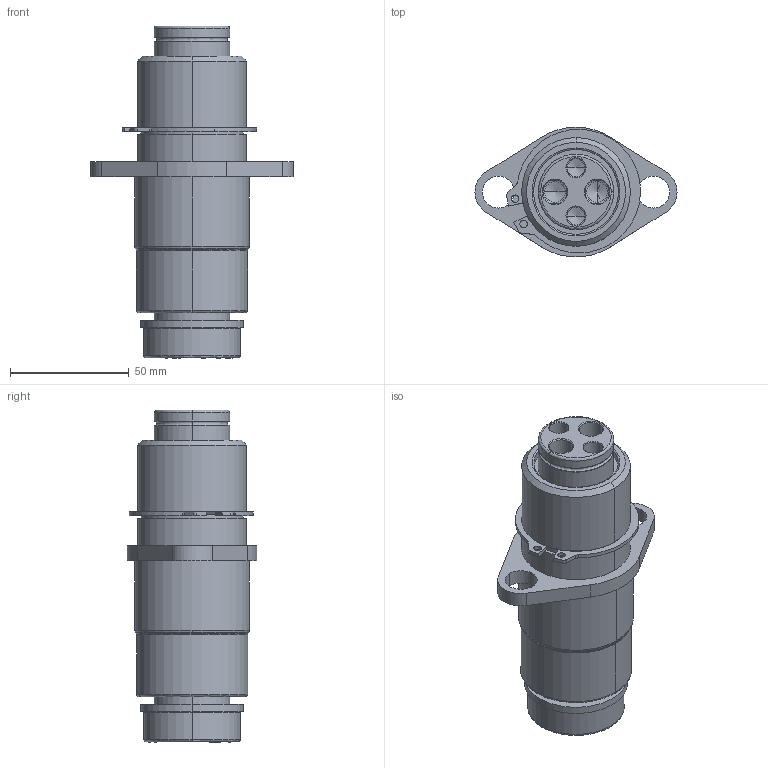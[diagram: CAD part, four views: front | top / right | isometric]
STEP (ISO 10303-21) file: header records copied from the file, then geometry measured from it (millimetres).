
FILE_DESCRIPTION (( 'STEP AP214' ), '1' );
FILE_NAME ('GK120-N4-2-BP-M-XXX.STEP', '2020-09-21T15:59:00', ( '' ), ( '' ), 'SwSTEP 2.0', 'SolidWorks 2017', '' );
FILE_SCHEMA (( 'AUTOMOTIVE_DESIGN' ));
Length unit declared in the file: inch
Products named in the file (7): GK1.25-N4-2-BP-Base; RetainingRing; GK120-N4-2-BP-M-XXX; GK120-DampeningWasher; GK120-M-XXX-GuidePin
Assembly tree (6 placements, depth 3):
  GK120-N4-2-BP-M-XXX
    GK1.25-N4-2-BP-Base
      GK1.25-N4-2-BP-Base
      RetainingRing
    GK120-M-XXX-GuidePin
      GK120-M-XXX-GuidePin
      GK120-DampeningWasher
Bounding box: 85.09 x 54.52 x 139.7 mm (x, y, z)
Volume: 218542.8 mm3; surface area: 54884.1 mm2
Topology: 4 solids, 4 shells, 153 faces, 353 edges, 214 vertices
Faces by surface type: cylinder 69, bspline 30, cone 30, plane 24
Entity records: 6124 total; most frequent: CARTESIAN_POINT 2191, DIRECTION 763, ORIENTED_EDGE 690, EDGE_CURVE 345, AXIS2_PLACEMENT_3D 314, VERTEX_POINT 214, CIRCLE 180, EDGE_LOOP 179
